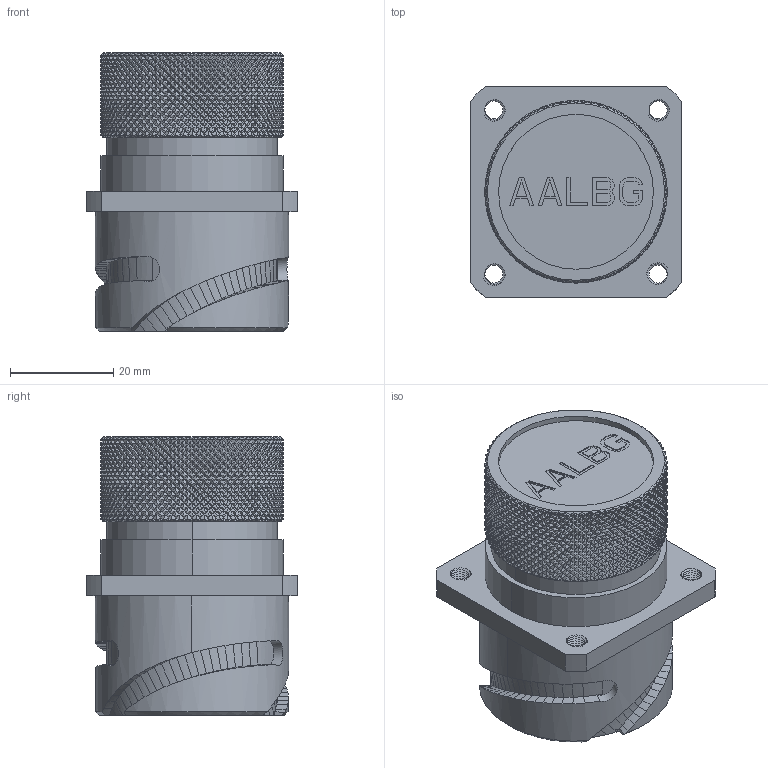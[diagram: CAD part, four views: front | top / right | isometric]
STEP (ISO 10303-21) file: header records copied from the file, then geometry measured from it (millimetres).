
FILE_DESCRIPTION((''),'2;1');
FILE_NAME('GCE3100E22M90P-B-T3_SW0001','2023-06-01T08:57:57',('paultorloting'),('NET AG system integration'),'CREO PARAMETRIC BY PTC INC, 2021404','CREO PARAMETRIC BY PTC INC, 2021404','');
FILE_SCHEMA(('AUTOMOTIVE_DESIGN { 1 0 10303 214 1 1 1 1 }'));
Products named in the file (1): GCE3100E22M90P-B-T3_SW0001
Bounding box: 41 x 41 x 54 mm (x, y, z)
Volume: 47081.3 mm3; surface area: 15578.9 mm2
Topology: 1 solids, 1 shells, 11429 faces, 24763 edges, 13356 vertices
Faces by surface type: bspline 6668, plane 3238, cylinder 1500, cone 13, torus 10
Entity records: 493418 total; most frequent: CARTESIAN_POINT 234050, ORIENTED_EDGE 49526, EDGE_CURVE 24763, B_SPLINE_CURVE_WITH_KNOTS 21094, DIRECTION 13450, VERTEX_POINT 13356, EDGE_LOOP 11457, FACE_OUTER_BOUND 11429
